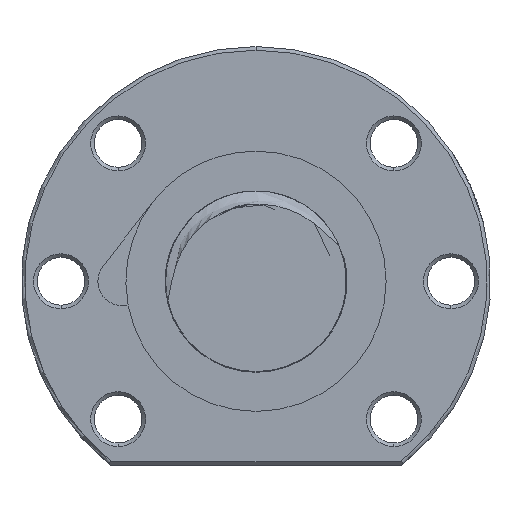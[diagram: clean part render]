
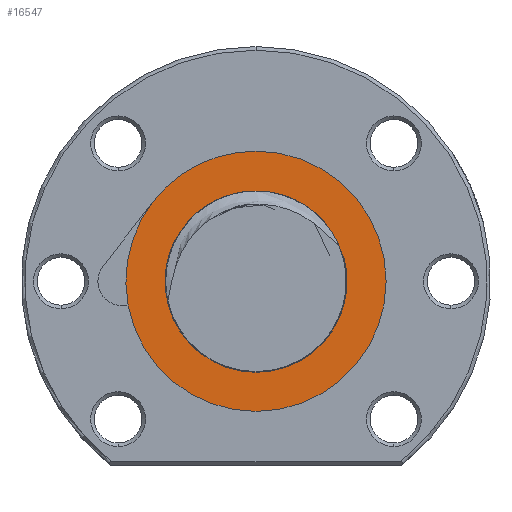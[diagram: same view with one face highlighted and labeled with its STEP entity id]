
A CAD part, left-side view. The second image highlights one B-rep face of the part: STEP entity #16547.
In plain terms, the highlighted planar face has unit normal (-1, 0, 0).
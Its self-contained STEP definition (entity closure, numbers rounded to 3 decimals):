
#16194 = EDGE_CURVE ( 'NONE', #16195, #16278, #18137, .T. ) ;
#16195 = VERTEX_POINT ( 'NONE', #18128 ) ;
#16198 = VERTEX_POINT ( 'NONE', #18125 ) ;
#16201 = VERTEX_POINT ( 'NONE', #18070 ) ;
#16203 = EDGE_CURVE ( 'NONE', #16201, #16198, #18068, .T. ) ;
#16277 = EDGE_CURVE ( 'NONE', #16278, #16279, #18429, .T. ) ;
#16278 = VERTEX_POINT ( 'NONE', #18425 ) ;
#16279 = VERTEX_POINT ( 'NONE', #18424 ) ;
#16291 = EDGE_CURVE ( 'NONE', #16279, #16292, #18401, .T. ) ;
#16292 = VERTEX_POINT ( 'NONE', #18397 ) ;
#16547 = ADVANCED_FACE ( 'NONE', ( #18849, #18848 ), #18847, .T. ) ;
#16548 = EDGE_LOOP ( 'NONE', ( #16549, #16550, #16552 ) ) ;
#16549 = ORIENTED_EDGE ( 'NONE', *, *, #16718, .F. ) ;
#16550 = ORIENTED_EDGE ( 'NONE', *, *, #16551, .F. ) ;
#16551 = EDGE_CURVE ( 'NONE', #16198, #16716, #18842, .T. ) ;
#16552 = ORIENTED_EDGE ( 'NONE', *, *, #16203, .F. ) ;
#16553 = EDGE_LOOP ( 'NONE', ( #16554, #16556, #16557, #16558 ) ) ;
#16554 = ORIENTED_EDGE ( 'NONE', *, *, #16555, .T. ) ;
#16555 = EDGE_CURVE ( 'NONE', #16292, #16195, #18841, .T. ) ;
#16556 = ORIENTED_EDGE ( 'NONE', *, *, #16194, .T. ) ;
#16557 = ORIENTED_EDGE ( 'NONE', *, *, #16277, .T. ) ;
#16558 = ORIENTED_EDGE ( 'NONE', *, *, #16291, .T. ) ;
#16716 = VERTEX_POINT ( 'NONE', #19495 ) ;
#16718 = EDGE_CURVE ( 'NONE', #16716, #16201, #19406, .T. ) ;
#18064 = DIRECTION ( 'NONE',  ( 0., 0., 1. ) ) ;
#18065 = DIRECTION ( 'NONE',  ( -1., 0., 0. ) ) ;
#18066 = CARTESIAN_POINT ( 'NONE',  ( -127.8, 0., 0. ) ) ;
#18067 = AXIS2_PLACEMENT_3D ( 'NONE', #18066, #18065, #18064 ) ;
#18068 = CIRCLE ( 'NONE', #18067, 12.6 ) ;
#18070 = CARTESIAN_POINT ( 'NONE',  ( -127.8, 0., -12.6 ) ) ;
#18125 = CARTESIAN_POINT ( 'NONE',  ( -127.8, -12.133, 3.399 ) ) ;
#18128 = CARTESIAN_POINT ( 'NONE',  ( -127.8, 17.717, -3.285 ) ) ;
#18129 = DIRECTION ( 'NONE',  ( 0., 0., 1. ) ) ;
#18130 = DIRECTION ( 'NONE',  ( -1., 0., 0. ) ) ;
#18131 = CARTESIAN_POINT ( 'NONE',  ( -127.8, 0., 0. ) ) ;
#18132 = AXIS2_PLACEMENT_3D ( 'NONE', #18131, #18130, #18129 ) ;
#18137 = CIRCLE ( 'NONE', #18132, 18.019 ) ;
#18397 = CARTESIAN_POINT ( 'NONE',  ( -127.8, 14.243, 11.038 ) ) ;
#18398 = DIRECTION ( 'NONE',  ( 0., 0., 1. ) ) ;
#18399 = DIRECTION ( 'NONE',  ( -1., 0., 0. ) ) ;
#18400 = AXIS2_PLACEMENT_3D ( 'NONE', #18407, #18399, #18398 ) ;
#18401 = CIRCLE ( 'NONE', #18400, 18.019 ) ;
#18407 = CARTESIAN_POINT ( 'NONE',  ( -127.8, 0., 0. ) ) ;
#18424 = CARTESIAN_POINT ( 'NONE',  ( -127.8, 0., 18.019 ) ) ;
#18425 = CARTESIAN_POINT ( 'NONE',  ( -127.8, 0., -18.019 ) ) ;
#18426 = DIRECTION ( 'NONE',  ( 0., 0., 1. ) ) ;
#18427 = DIRECTION ( 'NONE',  ( -1., 0., 0. ) ) ;
#18428 = AXIS2_PLACEMENT_3D ( 'NONE', #18435, #18427, #18426 ) ;
#18429 = CIRCLE ( 'NONE', #18428, 18.019 ) ;
#18435 = CARTESIAN_POINT ( 'NONE',  ( -127.8, 0., 0. ) ) ;
#18765 = CARTESIAN_POINT ( 'NONE',  ( -127.8, 2.646, 10.307 ) ) ;
#18766 = CARTESIAN_POINT ( 'NONE',  ( -127.8, 1.28, 10.565 ) ) ;
#18767 = CARTESIAN_POINT ( 'NONE',  ( -127.8, 0.59, 10.632 ) ) ;
#18768 = CARTESIAN_POINT ( 'NONE',  ( -127.8, -0.454, 10.643 ) ) ;
#18769 = CARTESIAN_POINT ( 'NONE',  ( -127.8, -0.805, 10.63 ) ) ;
#18770 = CARTESIAN_POINT ( 'NONE',  ( -127.8, -1.505, 10.575 ) ) ;
#18771 = CARTESIAN_POINT ( 'NONE',  ( -127.8, -1.851, 10.532 ) ) ;
#18772 = CARTESIAN_POINT ( 'NONE',  ( -127.8, -2.877, 10.36 ) ) ;
#18773 = CARTESIAN_POINT ( 'NONE',  ( -127.8, -3.545, 10.187 ) ) ;
#18774 = CARTESIAN_POINT ( 'NONE',  ( -127.8, -4.524, 9.844 ) ) ;
#18775 = CARTESIAN_POINT ( 'NONE',  ( -127.8, -4.846, 9.715 ) ) ;
#18776 = CARTESIAN_POINT ( 'NONE',  ( -127.8, -5.483, 9.43 ) ) ;
#18777 = CARTESIAN_POINT ( 'NONE',  ( -127.8, -5.799, 9.272 ) ) ;
#18778 = CARTESIAN_POINT ( 'NONE',  ( -127.8, -7.328, 8.429 ) ) ;
#18779 = CARTESIAN_POINT ( 'NONE',  ( -127.8, -8.412, 7.571 ) ) ;
#18780 = CARTESIAN_POINT ( 'NONE',  ( -127.8, -9.873, 6.068 ) ) ;
#18781 = CARTESIAN_POINT ( 'NONE',  ( -127.8, -10.328, 5.532 ) ) ;
#18782 = CARTESIAN_POINT ( 'NONE',  ( -127.8, -10.984, 4.713 ) ) ;
#18783 = CARTESIAN_POINT ( 'NONE',  ( -127.8, -11.198, 4.436 ) ) ;
#18784 = CARTESIAN_POINT ( 'NONE',  ( -127.8, -11.529, 4.028 ) ) ;
#18785 = CARTESIAN_POINT ( 'NONE',  ( -127.8, -11.64, 3.893 ) ) ;
#18786 = CARTESIAN_POINT ( 'NONE',  ( -127.8, -11.874, 3.633 ) ) ;
#18787 = CARTESIAN_POINT ( 'NONE',  ( -127.8, -11.994, 3.507 ) ) ;
#18788 = CARTESIAN_POINT ( 'NONE',  ( -127.8, -12.133, 3.399 ) ) ;
#18813 = DIRECTION ( 'NONE',  ( 0., 0., 1. ) ) ;
#18814 = DIRECTION ( 'NONE',  ( -1., 0., 0. ) ) ;
#18815 = CARTESIAN_POINT ( 'NONE',  ( -127.8, 0., 0. ) ) ;
#18816 = AXIS2_PLACEMENT_3D ( 'NONE', #18815, #18814, #18813 ) ;
#18817 = CARTESIAN_POINT ( 'NONE',  ( -127.8, 12.532, -1.306 ) ) ;
#18818 = CARTESIAN_POINT ( 'NONE',  ( -127.8, 12.443, -1.156 ) ) ;
#18819 = CARTESIAN_POINT ( 'NONE',  ( -127.8, 12.377, -0.992 ) ) ;
#18820 = CARTESIAN_POINT ( 'NONE',  ( -127.8, 12.255, -0.663 ) ) ;
#18821 = CARTESIAN_POINT ( 'NONE',  ( -127.8, 12.201, -0.497 ) ) ;
#18822 = CARTESIAN_POINT ( 'NONE',  ( -127.8, 12.044, 0.005 ) ) ;
#18823 = CARTESIAN_POINT ( 'NONE',  ( -127.8, 11.947, 0.342 ) ) ;
#18824 = CARTESIAN_POINT ( 'NONE',  ( -127.8, 11.638, 1.347 ) ) ;
#18825 = CARTESIAN_POINT ( 'NONE',  ( -127.8, 11.411, 2.013 ) ) ;
#18826 = CARTESIAN_POINT ( 'NONE',  ( -127.8, 10.874, 3.302 ) ) ;
#18827 = CARTESIAN_POINT ( 'NONE',  ( -127.8, 10.567, 3.926 ) ) ;
#18828 = CARTESIAN_POINT ( 'NONE',  ( -127.8, 10.035, 4.825 ) ) ;
#18829 = CARTESIAN_POINT ( 'NONE',  ( -127.8, 9.846, 5.118 ) ) ;
#18830 = CARTESIAN_POINT ( 'NONE',  ( -127.8, 9.444, 5.692 ) ) ;
#18831 = CARTESIAN_POINT ( 'NONE',  ( -127.8, 9.23, 5.972 ) ) ;
#18832 = CARTESIAN_POINT ( 'NONE',  ( -127.8, 8.562, 6.778 ) ) ;
#18833 = CARTESIAN_POINT ( 'NONE',  ( -127.8, 8.077, 7.275 ) ) ;
#18834 = CARTESIAN_POINT ( 'NONE',  ( -127.8, 7.287, 7.957 ) ) ;
#18835 = CARTESIAN_POINT ( 'NONE',  ( -127.8, 7.013, 8.174 ) ) ;
#18836 = CARTESIAN_POINT ( 'NONE',  ( -127.8, 6.444, 8.586 ) ) ;
#18837 = CARTESIAN_POINT ( 'NONE',  ( -127.8, 6.151, 8.779 ) ) ;
#18838 = CARTESIAN_POINT ( 'NONE',  ( -127.8, 5.254, 9.316 ) ) ;
#18839 = CARTESIAN_POINT ( 'NONE',  ( -127.8, 4.63, 9.619 ) ) ;
#18840 = CARTESIAN_POINT ( 'NONE',  ( -127.8, 3.328, 10.115 ) ) ;
#18841 = CIRCLE ( 'NONE', #18816, 18.019 ) ;
#18842 = B_SPLINE_CURVE_WITH_KNOTS ( 'NONE', 3,
 ( #18788, #18787, #18786, #18785, #18784, #18783, #18782, #18781, #18780, #18779, #18778, #18777, #18776, #18775, #18774, #18773, #18772, #18771, #18770, #18769, #18768, #18767, #18766, #18765, #18840, #18839, #18838, #18837, #18836, #18835, #18834, #18833, #18832, #18831, #18830, #18829, #18828, #18827, #18826, #18825, #18824, #18823, #18822, #18821, #18820, #18819, #18818, #18817 ),
 .UNSPECIFIED., .F., .F.,
 ( 4, 2, 2, 2, 2, 2, 2, 2, 2, 2, 2, 2, 2, 2, 2, 2, 2, 2, 2, 2, 2, 2, 2, 4 ),
 ( 0.047, 0.048, 0.048, 0.049, 0.051, 0.055, 0.057, 0.058, 0.06, 0.061, 0.062, 0.064, 0.066, 0.068, 0.069, 0.07, 0.072, 0.073, 0.074, 0.077, 0.079, 0.08, 0.08, 0.081 ),
 .UNSPECIFIED. ) ;
#18843 = DIRECTION ( 'NONE',  ( 0., 0., 1. ) ) ;
#18844 = DIRECTION ( 'NONE',  ( -1., 0., 0. ) ) ;
#18845 = CARTESIAN_POINT ( 'NONE',  ( -127.8, 0., 12.6 ) ) ;
#18846 = AXIS2_PLACEMENT_3D ( 'NONE', #18845, #18844, #18843 ) ;
#18847 = PLANE ( 'NONE',  #18846 ) ;
#18848 = FACE_OUTER_BOUND ( 'NONE', #16553, .T. ) ;
#18849 = FACE_BOUND ( 'NONE', #16548, .T. ) ;
#19403 = DIRECTION ( 'NONE',  ( 0., 0., 1. ) ) ;
#19404 = DIRECTION ( 'NONE',  ( -1., 0., 0. ) ) ;
#19405 = AXIS2_PLACEMENT_3D ( 'NONE', #19497, #19404, #19403 ) ;
#19406 = CIRCLE ( 'NONE', #19405, 12.6 ) ;
#19495 = CARTESIAN_POINT ( 'NONE',  ( -127.8, 12.532, -1.306 ) ) ;
#19497 = CARTESIAN_POINT ( 'NONE',  ( -127.8, 0., 0. ) ) ;
